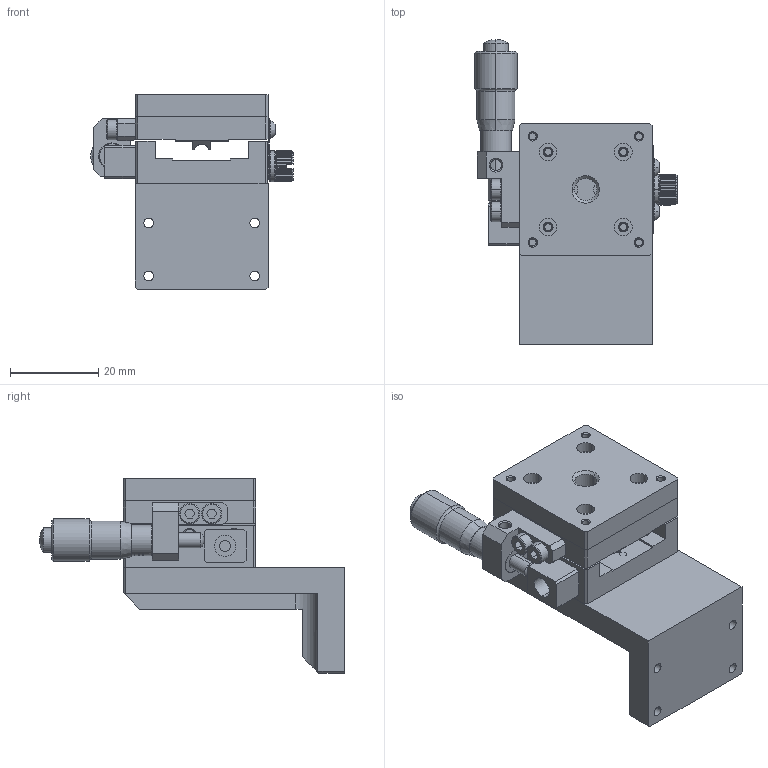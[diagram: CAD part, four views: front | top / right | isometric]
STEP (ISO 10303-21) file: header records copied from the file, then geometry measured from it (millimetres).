
FILE_DESCRIPTION((''),'2;1');
FILE_NAME('030-030-15-ST6-Z-L_ASM','2022-06-22T16:17:24',('windows10'),(''),'CREO PARAMETRIC BY PTC INC, 2018260','CREO PARAMETRIC BY PTC INC, 2018260','');
FILE_SCHEMA(('CONFIG_CONTROL_DESIGN'));
Length unit declared in the file: millimetre
Products named in the file (15): BRACKET-L-30; BOTTOM-30-15-NEW; TOP-30-15-NEW; STOPPER-PLATE-2530; 2D5-4-ROUND; WASHER-7-1D4; STOPPER-M2D5-8-8; PIN-1D5-5; PIN-BLOCK-30; HEAD-BLOCK-2530-L; MICRO-HEAD-6D5-SJP; 2D5-8; 030-030-15-ST6-X-L_ASM; TOP-30-Z; 030-030-15-ST6-Z-L_ASM
Assembly tree (16 placements, depth 3):
  030-030-15-ST6-Z-L_ASM
    BRACKET-L-30
    030-030-15-ST6-X-L_ASM
      BOTTOM-30-15-NEW
      TOP-30-15-NEW
      STOPPER-PLATE-2530
      2D5-4-ROUND  x2
      WASHER-7-1D4
      STOPPER-M2D5-8-8
      PIN-1D5-5
      PIN-BLOCK-30
      HEAD-BLOCK-2530-L
      MICRO-HEAD-6D5-SJP
      2D5-8  x2
    TOP-30-Z
Bounding box: 45.8 x 68.95 x 44 mm (x, y, z)
Volume: 30540.1 mm3; surface area: 19863.5 mm2
Topology: 16 solids, 17 shells, 828 faces, 2056 edges, 1328 vertices
Faces by surface type: plane 408, cylinder 284, cone 116, bspline 8, torus 8, sphere 4
Entity records: 24893 total; most frequent: CARTESIAN_POINT 5411, DIRECTION 4054, ORIENTED_EDGE 3928, EDGE_CURVE 1966, AXIS2_PLACEMENT_3D 1544, VERTEX_POINT 1274, VECTOR 966, LINE 966
